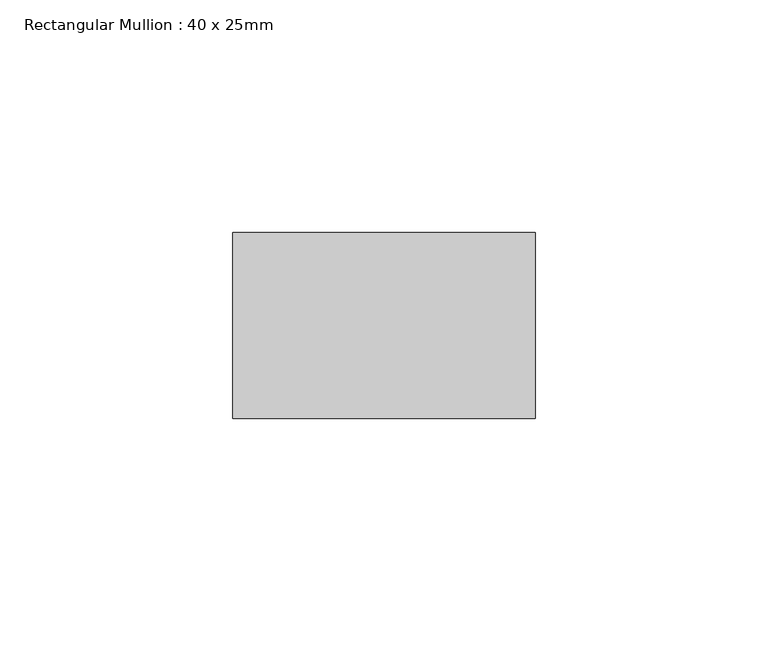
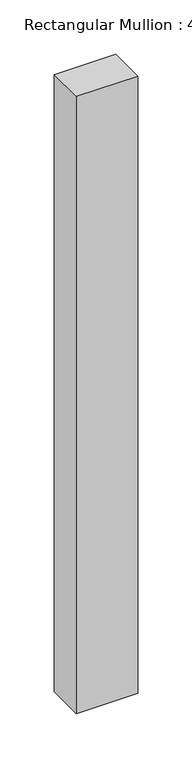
"""IFC4 building model written with IfcOpenShell, lengths in millimetres: member geometry, Rectangular Mullion : 40 x 25mm."""

import ifcopenshell
import ifcopenshell.guid

model = None  # the IFC model being written
_history = None  # IfcOwnerHistory: only IFC2X3 demands one
_inside = {}  # id of a spatial element -> (the spatial element, [elements in it])
_under = {}  # id of a project, library or spatial element -> (it, [spatial elements below it])
_declared = {}  # id of a project -> (the project, [libraries it declares])
_typed = {}  # id of a type object -> (the type object, [elements of that type])
_made_of = {}  # id of a material, layer set ... -> (it, [elements and type objects made of it])


def new_model(schema):
    """Start an empty IFC model of exactly this schema.

    Asked for "IFC4X3", IfcOpenShell would pick the latest addendum, in which some entities
    have other attributes; the version numbers below select the first issue.
    IFC2X3 requires an IfcOwnerHistory on every rooted entity: one is made here for all.
    """
    global model, _history
    if schema == "IFC4X3":
        model = ifcopenshell.file(schema_version=(4, 3, 0, 0))
    else:
        model = ifcopenshell.file(schema=schema)
    _inside.clear()
    _under.clear()
    _declared.clear()
    _typed.clear()
    _made_of.clear()
    _history = None
    if model.schema == "IFC2X3":
        org = make("IfcOrganization", Name="unknown")
        user = make(
            "IfcPersonAndOrganization",
            ThePerson=make("IfcPerson", FamilyName="unknown"),
            TheOrganization=org,
        )
        app = make(
            "IfcApplication",
            ApplicationDeveloper=org,
            Version="unknown",
            ApplicationFullName="unknown",
            ApplicationIdentifier="unknown",
        )
        _history = make(
            "IfcOwnerHistory",
            OwningUser=user,
            OwningApplication=app,
            ChangeAction="ADDED",
            CreationDate=0,
        )
    return model


def make(cls, **values):
    """One entity of the class cls with the attributes given. An attribute that is None is left unset."""
    return model.create_entity(
        cls, **{name: value for name, value in values.items() if value is not None}
    )


def rooted(cls, **values):
    """An entity with a GlobalId (a new one), such as an element, a storey or a relation."""
    return make(cls, GlobalId=ifcopenshell.guid.new(), OwnerHistory=_history, **values)


def si_unit(unit_type, name, prefix=None):
    """IfcSIUnit, for example si_unit("LENGTHUNIT", "METRE", prefix="MILLI")."""
    return make("IfcSIUnit", UnitType=unit_type, Prefix=prefix, Name=name)


def assignment(units):
    """IfcUnitAssignment: the units of a project."""
    return None if units is None else make("IfcUnitAssignment", Units=units)


def point(xyz):
    """IfcCartesianPoint."""
    return None if xyz is None else make("IfcCartesianPoint", Coordinates=xyz)


def direction(xyz):
    """IfcDirection."""
    return None if xyz is None else make("IfcDirection", DirectionRatios=xyz)


def frame(location, z_axis=None, x_axis=None):
    """IfcAxis2Placement3D, a coordinate frame: its origin and axes. An axis left out is left unset."""
    return make(
        "IfcAxis2Placement3D",
        Location=point(location),
        Axis=direction(z_axis),
        RefDirection=direction(x_axis),
    )


def origin():
    """The frame at (0, 0, 0) with its axes left unset."""
    return frame((0.0, 0.0, 0.0))


def place(relative_to, where):
    """IfcLocalPlacement: puts the frame where relative to a parent placement (None: the world)."""
    return make(
        "IfcLocalPlacement", PlacementRelTo=relative_to, RelativePlacement=where
    )


def context(
    kind, dimensions, precision=None, world=None, true_north=None, identifier=None
):
    """IfcGeometricRepresentationContext, for example the 3D "Model" context."""
    return make(
        "IfcGeometricRepresentationContext",
        ContextIdentifier=identifier,
        ContextType=kind,
        CoordinateSpaceDimension=dimensions,
        Precision=precision,
        WorldCoordinateSystem=world,
        TrueNorth=true_north,
    )


def project(units=None, contexts=None):
    """IfcProject with its units and contexts."""
    return rooted(
        "IfcProject",
        Name="project",
        RepresentationContexts=contexts,
        UnitsInContext=assignment(units),
    )


def spatial(cls, under=None, at=None, **own):
    """A site, building, storey or space (cls), placed at a placement, below another one or the project."""
    s = rooted(cls, ObjectPlacement=at, **own)
    if under is not None:
        _under.setdefault(under.id(), (under, []))[1].append(s)
    return s


def polyline(points):
    """IfcPolyline through the points."""
    return make("IfcPolyline", Points=[point(p) for p in points])


def outline(outer, holes=None, kind="AREA"):
    """IfcArbitraryClosedProfileDef: a profile drawn as a closed curve; with holes, ...WithVoids."""
    if holes is None:
        return make("IfcArbitraryClosedProfileDef", ProfileType=kind, OuterCurve=outer)
    return make(
        "IfcArbitraryProfileDefWithVoids",
        ProfileType=kind,
        OuterCurve=outer,
        InnerCurves=holes,
    )


def extrude(swept, where, along, depth):
    """IfcExtrudedAreaSolid: the profile swept, set in the frame where, extruded along a direction by depth."""
    return make(
        "IfcExtrudedAreaSolid",
        SweptArea=swept,
        Position=where,
        ExtrudedDirection=direction(along),
        Depth=depth,
    )


def shape(context_of_items, identifier, shape_type, items):
    """IfcShapeRepresentation: the items that make up one representation, for example the "Body"."""
    return make(
        "IfcShapeRepresentation",
        ContextOfItems=context_of_items,
        RepresentationIdentifier=identifier,
        RepresentationType=shape_type,
        Items=items,
    )


def source(mapping_origin, context_of_items, identifier, shape_type, items):
    """IfcRepresentationMap: a shape defined once, which mapped items show again and again."""
    return make(
        "IfcRepresentationMap",
        MappingOrigin=mapping_origin,
        MappedRepresentation=shape(context_of_items, identifier, shape_type, items),
    )


def transform(
    local_origin,
    x_axis=None,
    y_axis=None,
    z_axis=None,
    scale=None,
    scale2=None,
    scale3=None,
    uniform=True,
):
    """IfcCartesianTransformationOperator3D, or its non-uniform kind. x_axis, y_axis, z_axis: its Axis1, 2, 3."""
    if uniform:
        return make(
            "IfcCartesianTransformationOperator3D",
            Axis1=direction(x_axis),
            Axis2=direction(y_axis),
            LocalOrigin=point(local_origin),
            Scale=scale,
            Axis3=direction(z_axis),
        )
    return make(
        "IfcCartesianTransformationOperator3DnonUniform",
        Axis1=direction(x_axis),
        Axis2=direction(y_axis),
        LocalOrigin=point(local_origin),
        Scale=scale,
        Axis3=direction(z_axis),
        Scale2=scale2,
        Scale3=scale3,
    )


def mapped(mapping_source, mapping_target):
    """IfcMappedItem: shows the shape of a source again, moved by a transform."""
    return make(
        "IfcMappedItem", MappingSource=mapping_source, MappingTarget=mapping_target
    )


def made_of(thing, what):
    """Note that an element or type object is made of a material, layer set ...; save() writes the relation."""
    if what is not None:
        _made_of.setdefault(what.id(), (what, []))[1].append(thing)
    return thing


def element(
    cls,
    number,
    at=None,
    inside=None,
    cuts=None,
    type_object=None,
    material=None,
    context=None,
    identifier="Body",
    shape_type=None,
    held_by="IfcProductDefinitionShape",
    body=None,
    shapes=None,
    **own,
):
    """One element of the class cls, such as IfcWall. Its Tag is "e" and its number.

    at: its placement. inside: the storey or other place that contains it. cuts: it is an
    opening in that element (IfcRelVoidsElement). A single representation is given by context,
    identifier, shape_type and body (its items); several are given by shapes. held_by: the class
    of the entity that holds the representations. save() writes the other relations.
    """
    e = rooted(cls, Tag="e%d" % number, ObjectPlacement=at, **own)
    if body is not None:
        shapes = [shape(context, identifier, shape_type, body)]
    if shapes is not None:
        e.Representation = make(held_by, Representations=shapes)
    if inside is not None:
        _inside.setdefault(inside.id(), (inside, []))[1].append(e)
    if cuts is not None:
        rooted(
            "IfcRelVoidsElement", RelatingBuildingElement=cuts, RelatedOpeningElement=e
        )
    if type_object is not None:
        _typed.setdefault(type_object.id(), (type_object, []))[1].append(e)
    return made_of(e, material)


def aggregate(whole, parts):
    """IfcRelAggregates: a whole, such as a stair, and the parts it consists of."""
    return rooted("IfcRelAggregates", RelatingObject=whole, RelatedObjects=parts)


def save(model, path):
    """Write the relations noted so far, then the file.

    IfcRelAggregates (storeys below a building ...), IfcRelContainedInSpatialStructure (elements
    in a storey), IfcRelDefinesByType, IfcRelAssociatesMaterial and IfcRelDeclares: one each for
    every whole, place, type object, material and project.
    """
    for whole, parts in _under.values():
        aggregate(whole, parts)
    for where, things in _inside.values():
        rooted(
            "IfcRelContainedInSpatialStructure",
            RelatedElements=things,
            RelatingStructure=where,
        )
    for kind, things in _typed.values():
        rooted("IfcRelDefinesByType", RelatedObjects=things, RelatingType=kind)
    for what, things in _made_of.values():
        rooted("IfcRelAssociatesMaterial", RelatedObjects=things, RelatingMaterial=what)
    for by, libraries in _declared.values():
        rooted("IfcRelDeclares", RelatingContext=by, RelatedDefinitions=libraries)
    model.write(path)


def rectangular_mullion_40_x_25mm_c071963d(model_context):
    return source(origin(), model_context, "Body", "SweptSolid", [
        extrude(outline(polyline([(0.0, -20.0), (0.0, -60.0), (-65.0, -60.0), (-65.0, -20.0), (0.0, -20.0)])), frame((0.0, 0.0, -691.9280032), z_axis=(0.0, 0.0, 1.0), x_axis=(1.0, 0.0, 0.0)), (0.0, 0.0, 1.0), 691.9280032),
    ])


if __name__ == "__main__":
    model = new_model("IFC4")
    model_context = context("Model", 3, world=origin())
    ifc_project = project(units=[si_unit("LENGTHUNIT", "METRE", prefix="MILLI")], contexts=[model_context])
    site = spatial("IfcSite", under=ifc_project)
    building = spatial("IfcBuilding", under=site)
    placement = place(None, origin())
    rectangular_mullion_40_x_25mm_shape = rectangular_mullion_40_x_25mm_c071963d(model_context)
    element("IfcMember", 1, ObjectType="Rectangular Mullion : 40 x 25mm", at=placement, inside=building, context=model_context, shape_type="MappedRepresentation", body=[
        mapped(rectangular_mullion_40_x_25mm_shape, transform((0.0, 0.0, 0.0), x_axis=(1.0, 0.0, 0.0), y_axis=(0.0, 1.0, 0.0), z_axis=(0.0, 0.0, 1.0))),
    ])
    save(model, "model.ifc")
